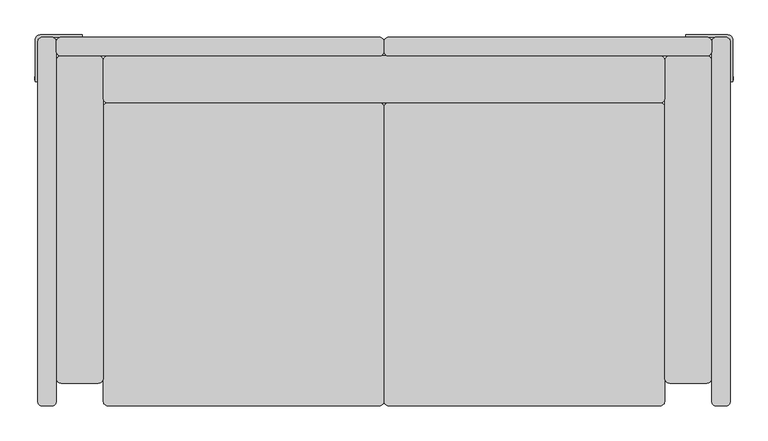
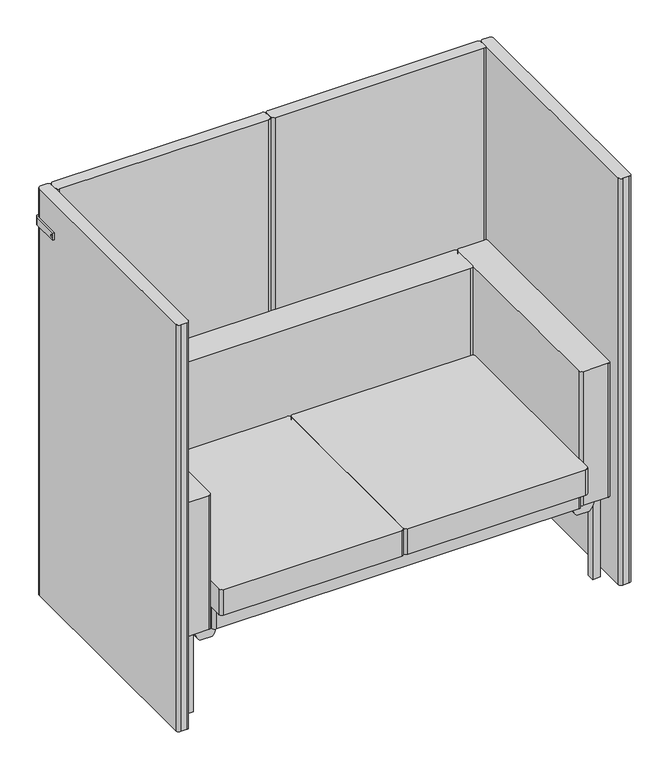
"""IFC4 building model written with IfcOpenShell, lengths in millimetres: furniture geometry, Sofá - COLAB - SE 1400 : Sofá - COLAB - SE 1400."""

from ifc_helpers import new_model, si_unit, point, frame, frame_2d, origin, origin_with_axes, place, context, project, spatial, polyline, circle_curve, trimmed, segment, composite_curve, outline, extrude, source, transform, mapped, element, save


def furniture_e14ccfc3(model_context):
    return source(origin(), model_context, "Body", "SweptSolid", [
        extrude(outline(composite_curve([segment(trimmed(circle_curve(frame_2d((699.8463907, 1287.5000002)), 3.8), [point((696.0463907, 1287.5000002))], [point((703.6463907, 1287.5000002))], False, "CARTESIAN"), True, "CONTINUOUS"), segment(trimmed(circle_curve(frame_2d((699.8463907, 1287.5000002)), 3.8), [point((703.6463907, 1287.5000002))], [point((696.0463907, 1287.5000002))], False, "CARTESIAN"), True, "CONTINUOUS")], self_intersect=False)), frame((1445.1502508, 0.0, 0.0), z_axis=(1.0, 0.0, 0.0), x_axis=(0.0, 1.0, 0.0)), (0.0, 0.0, 1.0), 0.9502508),
        extrude(outline(composite_curve([segment(trimmed(circle_curve(frame_2d((699.8463907, 1287.5000002)), 3.8), [point((696.0463907, 1287.5000002))], [point((703.6463907, 1287.5000002))], False, "CARTESIAN"), True, "CONTINUOUS"), segment(trimmed(circle_curve(frame_2d((699.8463907, 1287.5000002)), 3.8), [point((703.6463907, 1287.5000002))], [point((696.0463907, 1287.5000002))], False, "CARTESIAN"), True, "CONTINUOUS")], self_intersect=False)), frame((-45.8, 0.0, 0.0), z_axis=(1.0, 0.0, 0.0), x_axis=(0.0, 1.0, 0.0)), (0.0, 0.0, 1.0), 0.9502508),
        extrude(outline(composite_curve([segment(polyline([(-34.8497484, 793.2050002), (55.1502516, 793.2050002), (55.1502516, 788.2049994), (-29.8497492, 788.2049994)]), True, "CONTINUOUS"), segment(trimmed(circle_curve(frame_2d((-29.8497492, 778.2049994)), 10.0), [point((-29.8497492, 788.2049994))], [point((-39.8497492, 778.2049994))], True, "CARTESIAN"), True, "CONTINUOUS"), segment(polyline([(-39.8497492, 778.2049994), (-39.8497492, 693.2049994), (-44.8497492, 693.2049994), (-44.8497492, 783.2049994)]), True, "CONTINUOUS"), segment(trimmed(circle_curve(frame_2d((-34.8497484, 783.2049994)), 10.0000008), [point((-44.8497492, 783.2049994))], [point((-34.8497484, 793.2050002))], False, "CARTESIAN"), True, "CONTINUOUS")], self_intersect=False)), frame((0.0, 0.0, 1275.0000001), z_axis=(0.0, 0.0, 1.0), x_axis=(1.0, 0.0, 0.0)), (0.0, 0.0, 1.0), 25.0000002),
        extrude(outline(composite_curve([segment(trimmed(circle_curve(frame_2d((1435.15025, 783.2049994)), 10.0000008), [point((1435.15025, 793.2050002))], [point((1445.1502508, 783.2049994))], False, "CARTESIAN"), True, "CONTINUOUS"), segment(polyline([(1445.1502508, 783.2049994), (1445.1502508, 693.2049994), (1440.1502508, 693.2049994), (1440.1502508, 778.2049994)]), True, "CONTINUOUS"), segment(trimmed(circle_curve(frame_2d((1430.1502508, 778.2049994)), 10.0), [point((1440.1502508, 778.2049994))], [point((1430.1502508, 788.2049994))], True, "CARTESIAN"), True, "CONTINUOUS"), segment(polyline([(1430.1502508, 788.2049994), (1345.15025, 788.2049994), (1345.15025, 793.2050002), (1435.15025, 793.2050002)]), True, "CONTINUOUS")], self_intersect=False)), frame((0.0, 0.0, 1275.0000001), z_axis=(0.0, 0.0, 1.0), x_axis=(1.0, 0.0, 0.0)), (0.0, 0.0, 1.0), 25.0000002),
        extrude(outline(composite_curve([segment(trimmed(circle_curve(frame_2d((710.0458523, 778.3099485)), 9.8956015), [point((700.1502508, 778.3099485))], [point((709.9414625, 788.2049994))], False, "CARTESIAN"), True, "CONTINUOUS"), segment(polyline([(709.9414625, 788.2049994), (1390.3458033, 788.2049994)]), True, "CONTINUOUS"), segment(trimmed(circle_curve(frame_2d((1390.3458033, 778.2503011)), 9.9546983), [point((1390.3458033, 788.2049994))], [point((1400.3005016, 778.2503011))], False, "CARTESIAN"), True, "CONTINUOUS"), segment(polyline([(1400.3005016, 778.2503011), (1400.3005016, 758.3099485)]), True, "CONTINUOUS"), segment(trimmed(circle_curve(frame_2d((1390.3458033, 758.3099485)), 9.9546983), [point((1400.3005016, 758.3099485))], [point((1390.3458033, 748.3552502))], False, "CARTESIAN"), True, "CONTINUOUS"), segment(polyline([(1390.3458033, 748.3552502), (710.1955439, 748.3552502)]), True, "CONTINUOUS"), segment(trimmed(circle_curve(frame_2d((710.1955439, 758.4005433)), 10.0452931), [point((710.1955439, 748.3552502))], [point((700.1502508, 758.4005433))], False, "CARTESIAN"), True, "CONTINUOUS"), segment(polyline([(700.1502508, 758.4005433), (700.1502508, 778.3099485)]), True, "CONTINUOUS")], self_intersect=False)), origin_with_axes(), (0.0, 0.0, 1.0), 1400.0000107),
        extrude(outline(composite_curve([segment(polyline([(700.1502508, 778.3099485), (700.1502508, 758.4005433)]), True, "CONTINUOUS"), segment(trimmed(circle_curve(frame_2d((690.1049577, 758.4005433)), 10.0452931), [point((700.1502508, 758.4005433))], [point((690.1049577, 748.3552502))], False, "CARTESIAN"), True, "CONTINUOUS"), segment(polyline([(690.1049577, 748.3552502), (9.9546983, 748.3552502)]), True, "CONTINUOUS"), segment(trimmed(circle_curve(frame_2d((9.9546983, 758.3099485)), 9.9546983), [point((9.9546983, 748.3552502))], [point((0.0, 758.3099485))], False, "CARTESIAN"), True, "CONTINUOUS"), segment(polyline([(0.0, 758.3099485), (0.0, 778.2503011)]), True, "CONTINUOUS"), segment(trimmed(circle_curve(frame_2d((9.9546983, 778.2503011)), 9.9546983), [point((0.0, 778.2503011))], [point((9.9546983, 788.2049994))], False, "CARTESIAN"), True, "CONTINUOUS"), segment(polyline([(9.9546983, 788.2049994), (690.3590391, 788.2049994)]), True, "CONTINUOUS"), segment(trimmed(circle_curve(frame_2d((690.2546493, 778.3099485)), 9.8956015), [point((690.3590391, 788.2049994))], [point((700.1502508, 778.3099485))], False, "CARTESIAN"), True, "CONTINUOUS")], self_intersect=False)), origin_with_axes(), (0.0, 0.0, 1.0), 1400.0000107),
        extrude(outline(composite_curve([segment(trimmed(circle_curve(frame_2d((1430.2551999, 778.3093979)), 9.8956015), [point((1430.2551999, 788.2049994))], [point((1440.1502508, 778.4137877))], False, "CARTESIAN"), True, "CONTINUOUS"), segment(polyline([(1440.1502508, 778.4137877), (1440.1502508, 9.1946983)]), True, "CONTINUOUS"), segment(trimmed(circle_curve(frame_2d((1430.1955525, 9.1946983)), 9.9546983), [point((1440.1502508, 9.1946983))], [point((1430.1955525, -0.76))], False, "CARTESIAN"), True, "CONTINUOUS"), segment(polyline([(1430.1955525, -0.76), (1410.2551999, -0.76)]), True, "CONTINUOUS"), segment(trimmed(circle_curve(frame_2d((1410.2551999, 9.1946983)), 9.9546983), [point((1410.2551999, -0.76))], [point((1400.3005016, 9.1946983))], False, "CARTESIAN"), True, "CONTINUOUS"), segment(polyline([(1400.3005016, 9.1946983), (1400.3005016, 778.1597063)]), True, "CONTINUOUS"), segment(trimmed(circle_curve(frame_2d((1410.3457947, 778.1597063)), 10.0452931), [point((1400.3005016, 778.1597063))], [point((1410.3457947, 788.2049994))], False, "CARTESIAN"), True, "CONTINUOUS"), segment(polyline([(1410.3457947, 788.2049994), (1430.2551999, 788.2049994)]), True, "CONTINUOUS")], self_intersect=False)), origin_with_axes(), (0.0, 0.0, 1.0), 1400.0000107),
        extrude(outline(composite_curve([segment(trimmed(circle_curve(frame_2d((-9.8950509, 778.3093979)), 9.8956015), [point((-9.8950509, 788.2049994))], [point((0.0, 778.4137877))], False, "CARTESIAN"), True, "CONTINUOUS"), segment(polyline([(0.0, 778.4137877), (0.0, 9.1946983)]), True, "CONTINUOUS"), segment(trimmed(circle_curve(frame_2d((-9.9546983, 9.1946983)), 9.9546983), [point((0.0, 9.1946983))], [point((-9.9546983, -0.76))], False, "CARTESIAN"), True, "CONTINUOUS"), segment(polyline([(-9.9546983, -0.76), (-29.8950509, -0.76)]), True, "CONTINUOUS"), segment(trimmed(circle_curve(frame_2d((-29.8950509, 9.1946983)), 9.9546983), [point((-29.8950509, -0.76))], [point((-39.8497492, 9.1946983))], False, "CARTESIAN"), True, "CONTINUOUS"), segment(polyline([(-39.8497492, 9.1946983), (-39.8497492, 778.1597063)]), True, "CONTINUOUS"), segment(trimmed(circle_curve(frame_2d((-29.8044561, 778.1597063)), 10.0452931), [point((-39.8497492, 778.1597063))], [point((-29.8044561, 788.2049994))], False, "CARTESIAN"), True, "CONTINUOUS"), segment(polyline([(-29.8044561, 788.2049994), (-9.8950509, 788.2049994)]), True, "CONTINUOUS")], self_intersect=False)), origin_with_axes(), (0.0, 0.0, 1.0), 1400.0000107),
        extrude(outline(composite_curve([segment(polyline([(1300.2919944, 637.9181793), (1300.2919944, 10.0042536)]), True, "CONTINUOUS"), segment(trimmed(circle_curve(frame_2d((1290.2877408, 10.0042536)), 10.0042536), [point((1300.2919944, 10.0042536))], [point((1290.2877408, 0.0))], False, "CARTESIAN"), True, "CONTINUOUS"), segment(polyline([(1290.2877408, 0.0), (710.1545044, 0.0)]), True, "CONTINUOUS"), segment(trimmed(circle_curve(frame_2d((710.1545044, 10.0042536)), 10.0042536), [point((710.1545044, 0.0))], [point((700.1502508, 10.0042536))], False, "CARTESIAN"), True, "CONTINUOUS"), segment(polyline([(700.1502508, 10.0042536), (700.1502508, 637.9181793)]), True, "CONTINUOUS"), segment(trimmed(circle_curve(frame_2d((710.1545044, 637.9181793)), 10.0042536), [point((700.1502508, 637.9181793))], [point((710.1545044, 647.9224329))], False, "CARTESIAN"), True, "CONTINUOUS"), segment(polyline([(710.1545044, 647.9224329), (1290.2877408, 647.9224329)]), True, "CONTINUOUS"), segment(trimmed(circle_curve(frame_2d((1290.2877408, 637.9181793)), 10.0042536), [point((1290.2877408, 647.9224329))], [point((1300.2919944, 637.9181793))], False, "CARTESIAN"), True, "CONTINUOUS")], self_intersect=False)), frame((0.0, 0.0, 351.2139073), z_axis=(0.0, 0.0, 1.0), x_axis=(1.0, 0.0, 0.0)), (0.0, 0.0, 1.0), 87.7045649),
        extrude(outline(composite_curve([segment(polyline([(245.4830285, 1293.700562), (245.4830285, 1334.5825379)]), True, "CONTINUOUS"), segment(trimmed(circle_curve(frame_2d((284.679009, 1293.8994439)), 56.4928227), [point((245.4830285, 1334.5825379))], [point((279.4554332, 1350.1502508))], False, "CARTESIAN"), True, "CONTINUOUS"), segment(polyline([(279.4554332, 1350.1502508), (279.4554332, 1278.1328491)]), True, "CONTINUOUS"), segment(trimmed(circle_curve(frame_2d((284.679009, 1334.3836559)), 56.4928227), [point((279.4554332, 1278.1328491))], [point((245.4830285, 1293.700562))], False, "CARTESIAN"), True, "CONTINUOUS")], self_intersect=False)), frame((0.0, 57.3761937, 0.0), z_axis=(0.0, 1.0, 0.0), x_axis=(0.0, 0.0, 1.0)), (0.0, 0.0, 1.0), 68.8985394),
        extrude(outline(composite_curve([segment(polyline([(245.4830285, 65.8589331), (245.4830285, 106.740909)]), True, "CONTINUOUS"), segment(trimmed(circle_curve(frame_2d((284.679009, 66.057815)), 56.4928227), [point((245.4830285, 106.740909))], [point((279.4554332, 122.3086219))], False, "CARTESIAN"), True, "CONTINUOUS"), segment(polyline([(279.4554332, 122.3086219), (279.4554332, 50.2912202)]), True, "CONTINUOUS"), segment(trimmed(circle_curve(frame_2d((284.679009, 106.5420271)), 56.4928227), [point((279.4554332, 50.2912202))], [point((245.4830285, 65.8589331))], False, "CARTESIAN"), True, "CONTINUOUS")], self_intersect=False)), frame((0.0, 57.3761937, 0.0), z_axis=(0.0, 1.0, 0.0), x_axis=(0.0, 0.0, 1.0)), (0.0, 0.0, 1.0), 68.8985394),
        extrude(outline(composite_curve([segment(trimmed(circle_curve(frame_2d((110.0127608, 637.9181793)), 10.0042536), [point((100.0085072, 637.9181793))], [point((110.0127608, 647.9224329))], False, "CARTESIAN"), True, "CONTINUOUS"), segment(polyline([(110.0127608, 647.9224329), (1290.2877408, 647.9224329)]), True, "CONTINUOUS"), segment(trimmed(circle_curve(frame_2d((1290.2877408, 637.9181793)), 10.0042536), [point((1290.2877408, 647.9224329))], [point((1300.2919944, 637.9181793))], False, "CARTESIAN"), True, "CONTINUOUS"), segment(polyline([(1300.2919944, 637.9181793), (1300.2919944, 50.0042536)]), True, "CONTINUOUS"), segment(trimmed(circle_curve(frame_2d((1290.2877408, 50.0042536)), 10.0042536), [point((1300.2919944, 50.0042536))], [point((1290.2877408, 40.0))], False, "CARTESIAN"), True, "CONTINUOUS"), segment(polyline([(1290.2877408, 40.0), (110.0127608, 40.0)]), True, "CONTINUOUS"), segment(trimmed(circle_curve(frame_2d((110.0127608, 50.0042536)), 10.0042536), [point((110.0127608, 40.0))], [point((100.0085072, 50.0042536))], False, "CARTESIAN"), True, "CONTINUOUS"), segment(polyline([(100.0085072, 50.0042536), (100.0085072, 637.9181793)]), True, "CONTINUOUS")], self_intersect=False)), frame((0.0, 0.0, 279.4554332), z_axis=(0.0, 0.0, 1.0), x_axis=(1.0, 0.0, 0.0)), (0.0, 0.0, 1.0), 71.7584741),
        extrude(outline(composite_curve([segment(trimmed(circle_curve(frame_2d((110.0127608, 637.9181793)), 10.0042536), [point((100.0085072, 637.9181793))], [point((110.0127608, 647.9224329))], False, "CARTESIAN"), True, "CONTINUOUS"), segment(polyline([(110.0127608, 647.9224329), (690.1459972, 647.9224329)]), True, "CONTINUOUS"), segment(trimmed(circle_curve(frame_2d((690.1459972, 637.9181793)), 10.0042536), [point((690.1459972, 647.9224329))], [point((700.1502508, 637.9181793))], False, "CARTESIAN"), True, "CONTINUOUS"), segment(polyline([(700.1502508, 637.9181793), (700.1502508, 10.0042536)]), True, "CONTINUOUS"), segment(trimmed(circle_curve(frame_2d((690.1459972, 10.0042536)), 10.0042536), [point((700.1502508, 10.0042536))], [point((690.1459972, 0.0))], False, "CARTESIAN"), True, "CONTINUOUS"), segment(polyline([(690.1459972, 0.0), (110.0127608, 0.0)]), True, "CONTINUOUS"), segment(trimmed(circle_curve(frame_2d((110.0127608, 10.0042536)), 10.0042536), [point((110.0127608, 0.0))], [point((100.0085072, 10.0042536))], False, "CARTESIAN"), True, "CONTINUOUS"), segment(polyline([(100.0085072, 10.0042536), (100.0085072, 637.9181793)]), True, "CONTINUOUS")], self_intersect=False)), frame((0.0, 0.0, 351.2139073), z_axis=(0.0, 0.0, 1.0), x_axis=(1.0, 0.0, 0.0)), (0.0, 0.0, 1.0), 87.7045649),
        extrude(outline(composite_curve([segment(polyline([(100.0085072, 657.9266865), (100.0085072, 738.3509966)]), True, "CONTINUOUS"), segment(trimmed(circle_curve(frame_2d((110.0127608, 738.3509966)), 10.0042536), [point((100.0085072, 738.3509966))], [point((110.0127608, 748.3552502))], False, "CARTESIAN"), True, "CONTINUOUS"), segment(polyline([(110.0127608, 748.3552502), (1290.2877408, 748.3552502)]), True, "CONTINUOUS"), segment(trimmed(circle_curve(frame_2d((1290.2877408, 738.3509966)), 10.0042536), [point((1290.2877408, 748.3552502))], [point((1300.2919944, 738.3509966))], False, "CARTESIAN"), True, "CONTINUOUS"), segment(polyline([(1300.2919944, 738.3509966), (1300.2919944, 657.9266865)]), True, "CONTINUOUS"), segment(trimmed(circle_curve(frame_2d((1290.2877408, 657.9266865)), 10.0042536), [point((1300.2919944, 657.9266865))], [point((1290.2877408, 647.9224329))], False, "CARTESIAN"), True, "CONTINUOUS"), segment(polyline([(1290.2877408, 647.9224329), (110.0127608, 647.9224329)]), True, "CONTINUOUS"), segment(trimmed(circle_curve(frame_2d((110.0127608, 657.9266865)), 10.0042536), [point((110.0127608, 647.9224329))], [point((100.0085072, 657.9266865))], False, "CARTESIAN"), True, "CONTINUOUS")], self_intersect=False)), frame((0.0, 0.0, 279.4554332), z_axis=(0.0, 0.0, 1.0), x_axis=(1.0, 0.0, 0.0)), (0.0, 0.0, 1.0), 460.5445779),
        extrude(outline(composite_curve([segment(trimmed(circle_curve(frame_2d((1390.296248, 58.3509966)), 10.0042536), [point((1400.3005016, 58.3509966))], [point((1390.296248, 48.346743))], False, "CARTESIAN"), True, "CONTINUOUS"), segment(polyline([(1390.296248, 48.346743), (1310.296248, 48.346743)]), True, "CONTINUOUS"), segment(trimmed(circle_curve(frame_2d((1310.296248, 58.3509966)), 10.0042536), [point((1310.296248, 48.346743))], [point((1300.2919944, 58.3509966))], False, "CARTESIAN"), True, "CONTINUOUS"), segment(polyline([(1300.2919944, 58.3509966), (1300.2919944, 738.3509966)]), True, "CONTINUOUS"), segment(trimmed(circle_curve(frame_2d((1310.296248, 738.3509966)), 10.0042536), [point((1300.2919944, 738.3509966))], [point((1310.296248, 748.3552502))], False, "CARTESIAN"), True, "CONTINUOUS"), segment(polyline([(1310.296248, 748.3552502), (1390.296248, 748.3552502)]), True, "CONTINUOUS"), segment(trimmed(circle_curve(frame_2d((1390.296248, 738.3509966)), 10.0042536), [point((1390.296248, 748.3552502))], [point((1400.3005016, 738.3509966))], False, "CARTESIAN"), True, "CONTINUOUS"), segment(polyline([(1400.3005016, 738.3509966), (1400.3005016, 58.3509966)]), True, "CONTINUOUS")], self_intersect=False)), frame((0.0, 0.0, 279.4554332), z_axis=(0.0, 0.0, 1.0), x_axis=(1.0, 0.0, 0.0)), (0.0, 0.0, 1.0), 460.5445779),
        extrude(outline(composite_curve([segment(polyline([(0.0, 58.3509966), (0.0, 738.3509966)]), True, "CONTINUOUS"), segment(trimmed(circle_curve(frame_2d((10.0042536, 738.3509966)), 10.0042536), [point((0.0, 738.3509966))], [point((10.0042536, 748.3552502))], False, "CARTESIAN"), True, "CONTINUOUS"), segment(polyline([(10.0042536, 748.3552502), (90.0042536, 748.3552502)]), True, "CONTINUOUS"), segment(trimmed(circle_curve(frame_2d((90.0042536, 738.3509966)), 10.0042536), [point((90.0042536, 748.3552502))], [point((100.0085072, 738.3509966))], False, "CARTESIAN"), True, "CONTINUOUS"), segment(polyline([(100.0085072, 738.3509966), (100.0085072, 58.3509966)]), True, "CONTINUOUS"), segment(trimmed(circle_curve(frame_2d((90.0042536, 58.3509966)), 10.0042536), [point((100.0085072, 58.3509966))], [point((90.0042536, 48.346743))], False, "CARTESIAN"), True, "CONTINUOUS"), segment(polyline([(90.0042536, 48.346743), (10.0042536, 48.346743)]), True, "CONTINUOUS"), segment(trimmed(circle_curve(frame_2d((10.0042536, 58.3509966)), 10.0042536), [point((10.0042536, 48.346743))], [point((0.0, 58.3509966))], False, "CARTESIAN"), True, "CONTINUOUS")], self_intersect=False)), frame((0.0, 0.0, 279.4554332), z_axis=(0.0, 0.0, 1.0), x_axis=(1.0, 0.0, 0.0)), (0.0, 0.0, 1.0), 460.5445779),
        extrude(outline(polyline([(1350.1502508, 205.7247839), (1350.1502508, 180.7247839), (50.2912202, 180.7247839), (50.2912202, 205.7247839), (1350.1502508, 205.7247839)])), frame((0.0, 0.0, 254.4554332), z_axis=(0.0, 0.0, 1.0), x_axis=(1.0, 0.0, 0.0)), (0.0, 0.0, 1.0), 25.0),
        extrude(outline(polyline([(1350.1502508, 605.7247839), (1350.1502508, 580.7247839), (50.2912202, 580.7247839), (50.2912202, 605.7247839), (1350.1502508, 605.7247839)])), frame((0.0, 0.0, 254.4554332), z_axis=(0.0, 0.0, 1.0), x_axis=(1.0, 0.0, 0.0)), (0.0, 0.0, 1.0), 25.0),
        extrude(outline(polyline([(722.267688, 0.0), (697.267688, 0.0), (697.267688, 254.4554332), (90.2661464, 254.4554332), (90.2661464, 0.0), (65.2661464, 0.0), (65.2661464, 279.4554332), (722.267688, 279.4554332), (722.267688, 0.0)])), frame((1350.1502508, 0.0, 0.0), z_axis=(1.0, 0.0, 0.0), x_axis=(0.0, 1.0, 0.0)), (0.0, 0.0, 1.0), 25.0),
        extrude(outline(polyline([(722.267688, 0.0), (697.267688, 0.0), (697.267688, 254.4554332), (90.2661464, 254.4554332), (90.2661464, 0.0), (65.2661464, 0.0), (65.2661464, 279.4554332), (722.267688, 279.4554332), (722.267688, 0.0)])), frame((24.5609209, 0.0, 0.0), z_axis=(1.0, 0.0, 0.0), x_axis=(0.0, 1.0, 0.0)), (0.0, 0.0, 1.0), 25.7302993),
    ])


if __name__ == "__main__":
    model = new_model("IFC4")
    model_context = context("Model", 3, world=origin())
    ifc_project = project(units=[si_unit("LENGTHUNIT", "METRE", prefix="MILLI")], contexts=[model_context])
    site = spatial("IfcSite", under=ifc_project)
    building = spatial("IfcBuilding", under=site)
    placement = place(None, origin())
    furniture_shape = furniture_e14ccfc3(model_context)
    element("IfcFurniture", 1, ObjectType="Sofá - COLAB - SE 1400 : Sofá - COLAB - SE 1400", at=placement, inside=building, context=model_context, shape_type="MappedRepresentation", body=[
        mapped(furniture_shape, transform((0.0, 0.0, 0.0), x_axis=(1.0, 0.0, 0.0), y_axis=(0.0, 1.0, 0.0), z_axis=(0.0, 0.0, 1.0))),
    ])
    save(model, "model.ifc")
